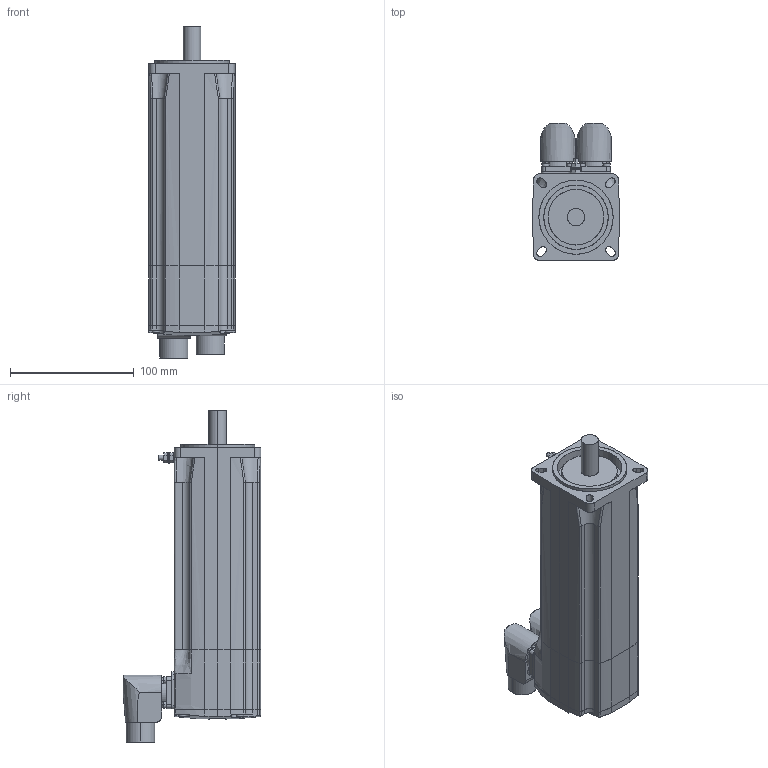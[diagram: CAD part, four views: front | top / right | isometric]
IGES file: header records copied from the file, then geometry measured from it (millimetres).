
Start section: SolidWorks IGES file using analytic representation for surfaces
Global section: file name: C:\PDM\SW-SAP\AA-IGES\SH30703x0xA2100.IGS; native system: SolidWorks 2010; preprocessor: SolidWorks 2010; author: SESA21951; date: 131129.085957; units: millimetre
Bounding box: 70 x 111.4 x 268.45 mm (x, y, z)
Surface area: 105389 mm2 (no closed solid volume)
Topology: 0 solids, 0 shells, 424 faces, 6057 edges, 6053 vertices
Faces by surface type: bspline 220, revolution 204
